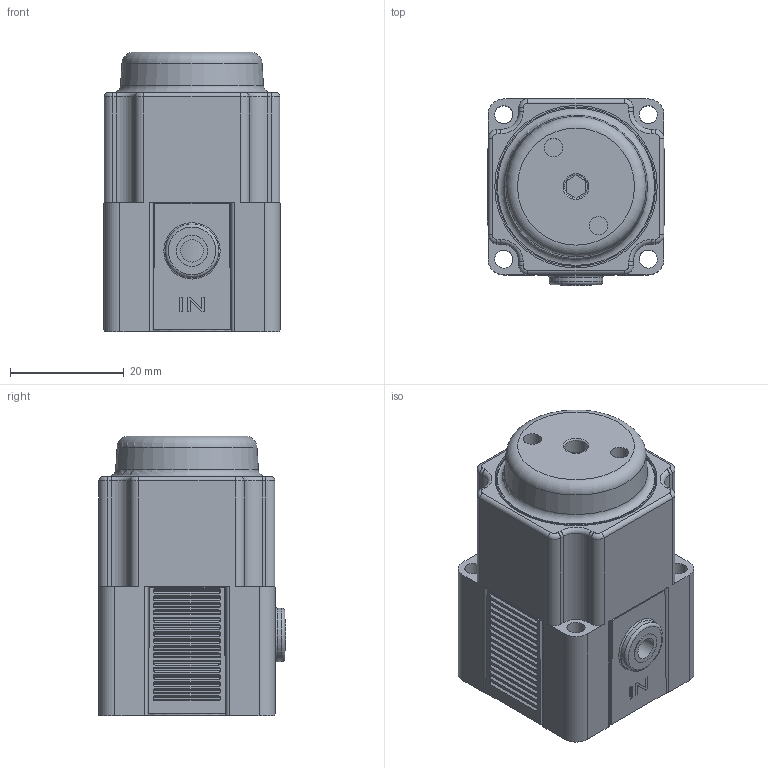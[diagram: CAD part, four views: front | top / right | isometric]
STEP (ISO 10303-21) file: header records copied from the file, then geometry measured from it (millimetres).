
FILE_DESCRIPTION(/* description */ (''),/* implementation_level */ '2;1');
FILE_NAME(/* name */ 'K:\Normteile INVENTOR\Air-Logic\Regulators\PR7000\PR 7___ 0 10-32 UNF Threads In.igs.ipt.stp',/* time_stamp */ '2020-05-27T10:53:45+02:00',/* author */ ('Paul'),/* organization */ (''),/* preprocessor_version */ 'ST-DEVELOPER v18',/* originating_system */ 'Autodesk Inventor 2020',/* authorisation */ '');
FILE_SCHEMA (('AUTOMOTIVE_DESIGN { 1 0 10303 214 3 1 1 }'));
Length unit declared in the file: inch
Products named in the file (1): PR 7___ 0 10-32 UNF Threads In.igs
Bounding box: 31.19 x 32.97 x 49.15 mm (x, y, z)
Volume: 39264.7 mm3; surface area: 12223.1 mm2
Topology: 1 solids, 1 shells, 588 faces, 1517 edges, 989 vertices
Faces by surface type: plane 301, cylinder 248, torus 21, bspline 16, cone 2
Full cylindrical faces by diameter (mm): 3.175 x4, 3.226 x2, 3.962 x1, 4.013 x1, 5.486 x1, 6.248 x1, 9.169 x1, 9.398 x1, 9.652 x1, 12.903 x1, 26.264 x1, 27.991 x1, 28.047 x1, 28.575 x1
Entity records: 20041 total; most frequent: CARTESIAN_POINT 4532, DIRECTION 3307, ORIENTED_EDGE 3034, EDGE_CURVE 1517, AXIS2_PLACEMENT_3D 1309, VERTEX_POINT 989, LINE 689, VECTOR 689
